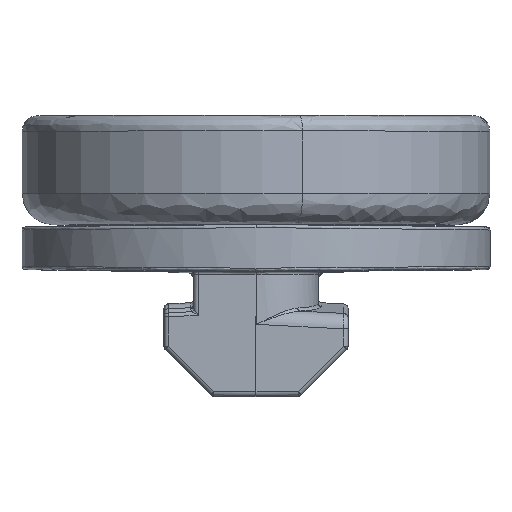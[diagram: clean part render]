
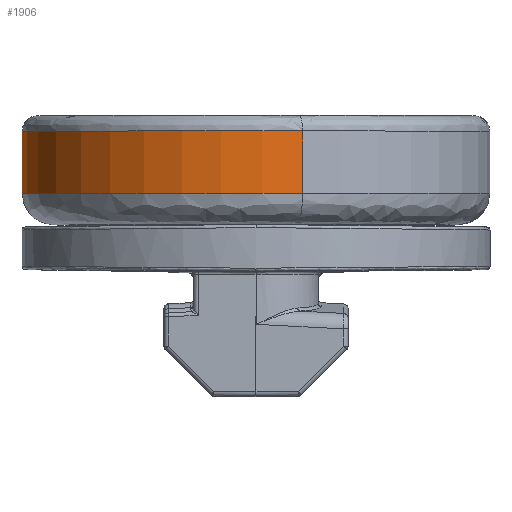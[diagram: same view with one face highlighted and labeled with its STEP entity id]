
A CAD part, top view. The second image highlights one B-rep face of the part: STEP entity #1906.
In plain terms, the highlighted cylindrical face has radius 15 mm (diameter 30 mm), a partial arc.
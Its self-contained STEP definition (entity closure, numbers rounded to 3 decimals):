
#368 = CARTESIAN_POINT ( 'NONE',  ( 0., 6., 15. ) ) ;
#922 = AXIS2_PLACEMENT_3D ( 'NONE', #7454, #7491, #7478 ) ;
#1283 = CIRCLE ( 'NONE', #2897, 15. ) ;
#1320 = CARTESIAN_POINT ( 'NONE',  ( 0., -10.215, 15. ) ) ;
#1906 = ADVANCED_FACE ( 'NONE', ( #7066 ), #13845, .T. ) ;
#2112 = VECTOR ( 'NONE', #5171, 1000. ) ;
#2214 = VERTEX_POINT ( 'NONE', #368 ) ;
#2245 = CARTESIAN_POINT ( 'NONE',  ( 0., 2., 0. ) ) ;
#2741 = CARTESIAN_POINT ( 'NONE',  ( 0., 2., 15. ) ) ;
#2897 = AXIS2_PLACEMENT_3D ( 'NONE', #10556, #4042, #11644 ) ;
#3299 = DIRECTION ( 'NONE',  ( 0., 0., -1. ) ) ;
#4042 = DIRECTION ( 'NONE',  ( 0., 1., 0. ) ) ;
#4443 = ORIENTED_EDGE ( 'NONE', *, *, #10763, .T. ) ;
#4634 = ORIENTED_EDGE ( 'NONE', *, *, #11491, .F. ) ;
#4802 = ORIENTED_EDGE ( 'NONE', *, *, #8496, .T. ) ;
#5171 = DIRECTION ( 'NONE',  ( 0., -1., 0. ) ) ;
#5994 = VERTEX_POINT ( 'NONE', #2741 ) ;
#7066 = FACE_OUTER_BOUND ( 'NONE', #12992, .T. ) ;
#7454 = CARTESIAN_POINT ( 'NONE',  ( 0., -10.215, 0. ) ) ;
#7478 = DIRECTION ( 'NONE',  ( 0., 0., -1. ) ) ;
#7491 = DIRECTION ( 'NONE',  ( 0., -1., 0. ) ) ;
#7636 = VERTEX_POINT ( 'NONE', #10834 ) ;
#8039 = LINE ( 'NONE', #1320, #13733 ) ;
#8496 = EDGE_CURVE ( 'NONE', #7636, #9223, #13561, .T. ) ;
#8829 = EDGE_CURVE ( 'NONE', #2214, #5994, #8039, .T. ) ;
#9223 = VERTEX_POINT ( 'NONE', #9318 ) ;
#9318 = CARTESIAN_POINT ( 'NONE',  ( 0., 2., -15. ) ) ;
#9527 = CARTESIAN_POINT ( 'NONE',  ( 0., -10.215, -15. ) ) ;
#9659 = AXIS2_PLACEMENT_3D ( 'NONE', #2245, #9795, #3299 ) ;
#9795 = DIRECTION ( 'NONE',  ( 0., 1., 0. ) ) ;
#10556 = CARTESIAN_POINT ( 'NONE',  ( 0., 6., 0. ) ) ;
#10763 = EDGE_CURVE ( 'NONE', #9223, #5994, #12752, .T. ) ;
#10834 = CARTESIAN_POINT ( 'NONE',  ( 0., 6., -15. ) ) ;
#11491 = EDGE_CURVE ( 'NONE', #7636, #2214, #1283, .T. ) ;
#11644 = DIRECTION ( 'NONE',  ( 0., 0., -1. ) ) ;
#12100 = DIRECTION ( 'NONE',  ( 0., -1., 0. ) ) ;
#12752 = CIRCLE ( 'NONE', #9659, 15. ) ;
#12992 = EDGE_LOOP ( 'NONE', ( #12994, #4634, #4802, #4443 ) ) ;
#12994 = ORIENTED_EDGE ( 'NONE', *, *, #8829, .F. ) ;
#13561 = LINE ( 'NONE', #9527, #2112 ) ;
#13733 = VECTOR ( 'NONE', #12100, 1000. ) ;
#13845 = CYLINDRICAL_SURFACE ( 'NONE', #922, 15. ) ;
